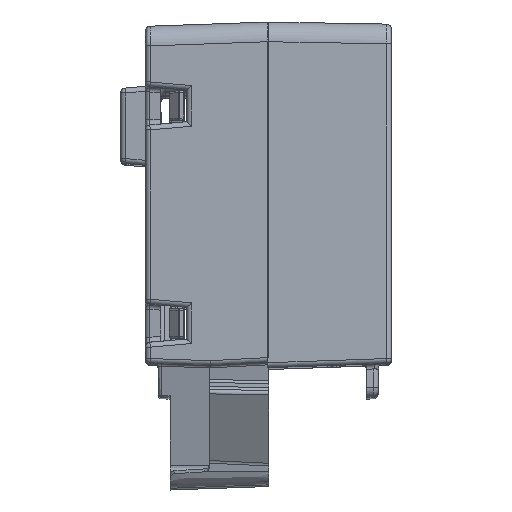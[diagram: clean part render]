
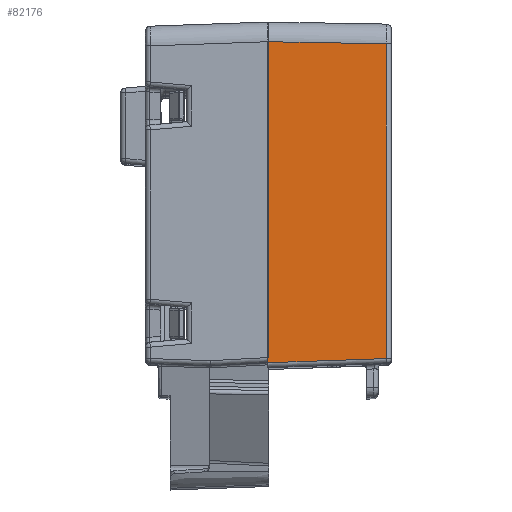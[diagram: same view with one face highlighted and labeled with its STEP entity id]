
A CAD part, top view. The second image highlights one B-rep face of the part: STEP entity #82176.
In plain terms, the highlighted planar face has unit normal (0.018, 0, 1).
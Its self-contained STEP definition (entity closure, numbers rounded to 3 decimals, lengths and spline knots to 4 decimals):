
#5997=FACE_OUTER_BOUND('',#10372,.T.);
#10372=EDGE_LOOP('',(#56754,#56755,#56756,#56757,#56758,#56759,#56760,#56761,
#56762,#56763,#56764,#56765,#56766));
#15371=LINE('',#124388,#23631);
#15441=LINE('',#124595,#23701);
#15446=LINE('',#124608,#23706);
#15449=LINE('',#124619,#23709);
#15451=LINE('',#124622,#23711);
#15461=LINE('',#124665,#23721);
#15810=LINE('',#127355,#24070);
#15811=LINE('',#127357,#24071);
#15812=LINE('',#127359,#24072);
#15813=LINE('',#127361,#24073);
#15814=LINE('',#127362,#24074);
#23631=VECTOR('',#97109,0.3937);
#23701=VECTOR('',#97289,0.3937);
#23706=VECTOR('',#97300,0.3937);
#23709=VECTOR('',#97317,0.3937);
#23711=VECTOR('',#97321,0.3937);
#23721=VECTOR('',#97365,0.3937);
#24070=VECTOR('',#98842,39.3701);
#24071=VECTOR('',#98843,39.3701);
#24072=VECTOR('',#98844,39.3701);
#24073=VECTOR('',#98845,39.3701);
#24074=VECTOR('',#98846,39.3701);
#30688=ELLIPSE('',#86270,0.5648,0.0197);
#30905=ELLIPSE('',#87090,2.2576,0.0787);
#32606=VERTEX_POINT('',#119749);
#32607=VERTEX_POINT('',#119750);
#33103=VERTEX_POINT('',#124387);
#33159=VERTEX_POINT('',#124594);
#33163=VERTEX_POINT('',#124606);
#33164=VERTEX_POINT('',#124607);
#33165=VERTEX_POINT('',#124618);
#33181=VERTEX_POINT('',#124664);
#33186=VERTEX_POINT('',#124779);
#33639=VERTEX_POINT('',#127354);
#33640=VERTEX_POINT('',#127356);
#33641=VERTEX_POINT('',#127358);
#33642=VERTEX_POINT('',#127360);
#40509=EDGE_CURVE('',#32606,#32607,#30688,.T.);
#41432=EDGE_CURVE('',#32607,#33103,#15371,.T.);
#41520=EDGE_CURVE('',#33159,#32606,#15441,.T.);
#41526=EDGE_CURVE('',#33163,#33164,#15446,.T.);
#41529=EDGE_CURVE('',#33165,#33163,#15449,.T.);
#41531=EDGE_CURVE('',#33164,#33159,#15451,.T.);
#41553=EDGE_CURVE('',#33181,#33165,#15461,.T.);
#41608=EDGE_CURVE('',#33103,#33186,#30905,.T.);
#42284=EDGE_CURVE('',#33639,#33186,#15810,.T.);
#42285=EDGE_CURVE('',#33640,#33639,#15811,.T.);
#42286=EDGE_CURVE('',#33641,#33640,#15812,.T.);
#42287=EDGE_CURVE('',#33642,#33641,#15813,.T.);
#42288=EDGE_CURVE('',#33181,#33642,#15814,.T.);
#56754=ORIENTED_EDGE('',*,*,#41526,.T.);
#56755=ORIENTED_EDGE('',*,*,#41531,.T.);
#56756=ORIENTED_EDGE('',*,*,#41520,.T.);
#56757=ORIENTED_EDGE('',*,*,#40509,.T.);
#56758=ORIENTED_EDGE('',*,*,#41432,.T.);
#56759=ORIENTED_EDGE('',*,*,#41608,.T.);
#56760=ORIENTED_EDGE('',*,*,#42284,.F.);
#56761=ORIENTED_EDGE('',*,*,#42285,.F.);
#56762=ORIENTED_EDGE('',*,*,#42286,.F.);
#56763=ORIENTED_EDGE('',*,*,#42287,.F.);
#56764=ORIENTED_EDGE('',*,*,#42288,.F.);
#56765=ORIENTED_EDGE('',*,*,#41553,.T.);
#56766=ORIENTED_EDGE('',*,*,#41529,.T.);
#74825=PLANE('',#87558);
#82176=ADVANCED_FACE('',(#5997),#74825,.T.);
#86270=AXIS2_PLACEMENT_3D('',#119751,#95297,#95298);
#87090=AXIS2_PLACEMENT_3D('',#124780,#97558,#97559);
#87558=AXIS2_PLACEMENT_3D('',#127353,#98840,#98841);
#95297=DIRECTION('center_axis',(-0.017,0.,
-1.));
#95298=DIRECTION('ref_axis',(0.998,0.052,-0.017));
#97109=DIRECTION('',(0.,1.,0.));
#97289=DIRECTION('',(0.,-1.,0.));
#97300=DIRECTION('',(0.,-1.,0.));
#97317=DIRECTION('',(0.,-1.,0.));
#97321=DIRECTION('',(0.,-1.,0.));
#97365=DIRECTION('',(0.,-1.,0.));
#97558=DIRECTION('center_axis',(-0.017,0.,
-1.));
#97559=DIRECTION('ref_axis',(0.999,0.035,-0.017));
#98840=DIRECTION('center_axis',(0.017,0.,
1.));
#98841=DIRECTION('ref_axis',(-1.,0.,0.017));
#98842=DIRECTION('',(1.,-0.017,-0.017));
#98843=DIRECTION('',(0.,1.,0.));
#98844=DIRECTION('',(-0.999,-0.035,0.017));
#98845=DIRECTION('',(0.,-1.,0.));
#98846=DIRECTION('',(1.,-0.017,-0.017));
#119749=CARTESIAN_POINT('',(0.4724,-0.8305,0.1279));
#119750=CARTESIAN_POINT('',(0.4705,-0.829,0.1279));
#119751=CARTESIAN_POINT('Origin',(1.0344,-0.7994,0.1181));
#124387=CARTESIAN_POINT('',(0.4705,0.4299,0.1279));
#124388=CARTESIAN_POINT('',(0.4705,-0.1878,0.1279));
#124594=CARTESIAN_POINT('',(0.4724,-0.7608,0.1279));
#124595=CARTESIAN_POINT('',(0.4724,-0.5285,0.1279));
#124606=CARTESIAN_POINT('',(0.4724,0.1054,0.1279));
#124607=CARTESIAN_POINT('',(0.4724,-0.6234,0.1279));
#124608=CARTESIAN_POINT('',(0.4724,-0.5285,0.1279));
#124618=CARTESIAN_POINT('',(0.4724,0.2428,0.1279));
#124619=CARTESIAN_POINT('',(0.4724,0.0246,0.1279));
#124622=CARTESIAN_POINT('',(0.4724,-0.4085,0.1279));
#124664=CARTESIAN_POINT('',(0.4724,0.4299,0.1279));
#124665=CARTESIAN_POINT('',(0.4724,-0.5285,0.1279));
#124779=CARTESIAN_POINT('',(0.4705,0.4299,0.1279));
#124780=CARTESIAN_POINT('Origin',(2.7263,0.5086,0.0885));
#127353=CARTESIAN_POINT('Origin',(0.4685,-0.1879,0.128));
#127354=CARTESIAN_POINT('',(0.4685,0.43,0.128));
#127355=CARTESIAN_POINT('',(0.4793,0.4298,0.1278));
#127356=CARTESIAN_POINT('',(0.4685,-0.8496,0.128));
#127357=CARTESIAN_POINT('',(0.4685,-0.1879,0.128));
#127358=CARTESIAN_POINT('',(0.9413,-0.8331,0.1197));
#127359=CARTESIAN_POINT('',(0.4678,-0.8496,0.128));
#127360=CARTESIAN_POINT('',(0.9413,0.4217,0.1197));
#127361=CARTESIAN_POINT('',(0.9413,-0.1879,0.1197));
#127362=CARTESIAN_POINT('',(0.4793,0.4298,0.1278));
